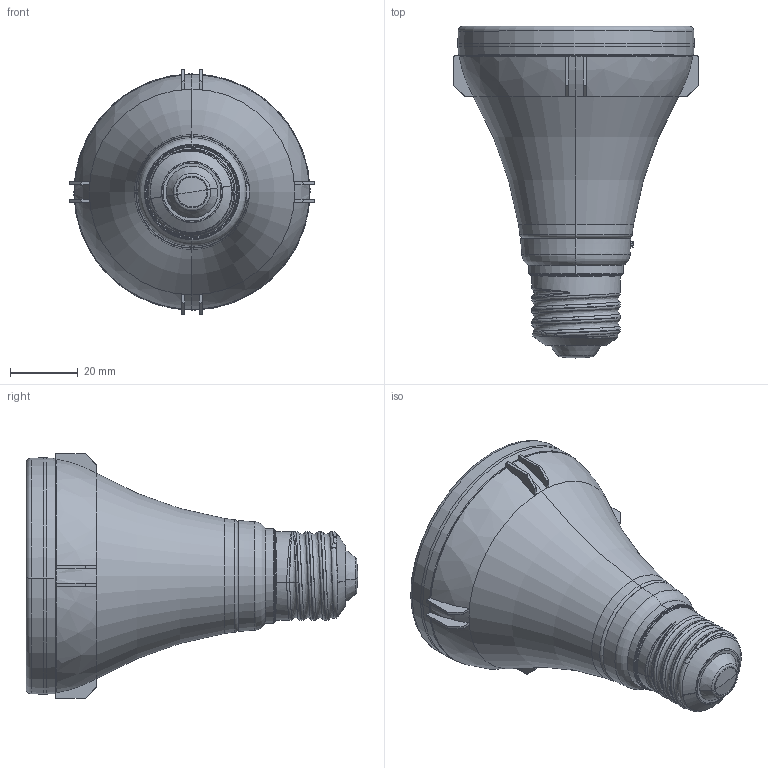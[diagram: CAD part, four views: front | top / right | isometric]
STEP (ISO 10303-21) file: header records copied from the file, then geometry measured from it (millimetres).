
FILE_DESCRIPTION(('FreeCAD Model'),'2;1');
FILE_NAME('Open CASCADE Shape Model','2024-08-30T10:01:32',( 'Lukas Balthasar Pank'),('Astera LED Technology GmbH'), 'Open CASCADE STEP processor 7.6','FreeCAD','Unknown');
FILE_SCHEMA(('AUTOMOTIVE_DESIGN { 1 0 10303 214 1 1 1 1 }'));
Length unit declared in the file: millimetre
Products named in the file (19): FP7+FP7-LRF+FP7-LLS_LunaBulb+LunaReflector+LunaLens_3D-STEP; LunaBulb; Lamp cup-L; inner diffuser holder; release button; spring; LunaBulb_InnerDome; LunaBulb_E27; FP7-LRF+FP7-LLS; LunaReflector; Reflector White Look; reflector cup-; LunaLens; LunaLens-ring; Diffuser Lens
Assembly tree (20 placements, depth 4):
  FP7+FP7-LRF+FP7-LLS_LunaBulb+LunaReflector+LunaLens_3D-STEP
    LunaBulb
      Lamp cup-L
      inner diffuser holder
      release button
      spring
        spring
        spring
      spring
        spring
        spring
    LunaBulb_InnerDome
    LunaBulb_E27
    FP7-LRF+FP7-LLS
      LunaReflector
        Reflector White Look
        reflector cup-
      LunaLens
        LunaLens-ring
        Diffuser Lens
      LunaReflector
Bounding box: 72.07 x 97.73 x 72.07 mm (x, y, z)
Volume: 39379.6 mm3; surface area: 69143.6 mm2
Topology: 10 solids, 14 shells, 5258 faces, 14319 edges, 9469 vertices
Faces by surface type: bspline 2573, plane 1476, cylinder 946, cone 125, torus 94, sphere 34, revolution 10
Entity records: 224642 total; most frequent: CARTESIAN_POINT 114179, ORIENTED_EDGE 28602, EDGE_CURVE 14303, DIRECTION 13085, VERTEX_POINT 9461, B_SPLINE_CURVE_WITH_KNOTS 8849, FACE_BOUND 5652, EDGE_LOOP 5652
